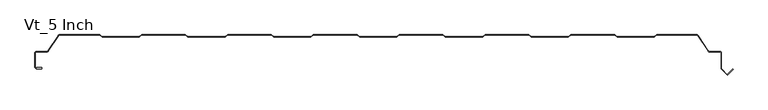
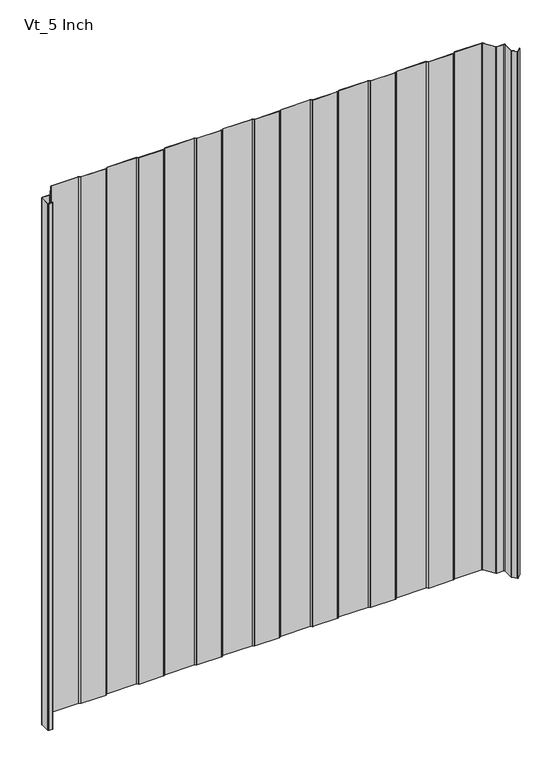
"""IFC4 building model written with IfcOpenShell, lengths in millimetres: plate geometry, KIP_R19_CP_KingSeam_Vt_Roof Panel : Vt_5 Inch."""

from ifc_helpers import new_model, si_unit, point, frame_2d, origin, origin_with_axes, place, context, project, spatial, polyline, circle_curve, trimmed, segment, composite_curve, outline, extrude, source, transform, mapped, element, save


def vt_5_inch_1d088f2f(model_context):
    return source(origin(), model_context, "Body", "SweptSolid", [
        extrude(outline(composite_curve([segment(polyline([(353.2057294, -127.2158084), (349.7460358, -124.715881), (285.172478, -124.715881), (281.7127828, -127.215809)]), True, "CONTINUOUS"), segment(trimmed(circle_curve(frame_2d((280.8342564, -126.0000005)), 1.4999996), [point((281.7127828, -127.215809))], [point((280.833285, -127.4999998))], False, "CARTESIAN"), True, "CONTINUOUS"), segment(polyline([(280.833285, -127.4999998), (227.0842565, -127.4999998)]), True, "CONTINUOUS"), segment(trimmed(circle_curve(frame_2d((227.0842565, -125.9999998)), 1.5), [point((227.0842565, -127.4999998))], [point((226.2057297, -127.2158085))], False, "CARTESIAN"), True, "CONTINUOUS"), segment(polyline([(226.2057297, -127.2158085), (222.7460351, -124.7158804), (158.1724783, -124.7158804), (154.7127834, -127.2158085)]), True, "CONTINUOUS"), segment(trimmed(circle_curve(frame_2d((153.8342567, -125.9999998)), 1.4999999), [point((154.7127834, -127.2158085))], [point((153.8332853, -127.4999994))], False, "CARTESIAN"), True, "CONTINUOUS"), segment(polyline([(153.8332853, -127.4999994), (100.0842567, -127.4999994)]), True, "CONTINUOUS"), segment(trimmed(circle_curve(frame_2d((100.0842567, -125.9999995)), 1.4999999), [point((100.0842567, -127.4999994))], [point((99.20573, -127.2158082))], False, "CARTESIAN"), True, "CONTINUOUS"), segment(polyline([(99.20573, -127.2158082), (95.7460356, -124.7158804), (31.1724783, -124.7158804), (27.7127834, -127.2158085)]), True, "CONTINUOUS"), segment(trimmed(circle_curve(frame_2d((26.8342567, -125.9999998)), 1.5), [point((27.7127834, -127.2158085))], [point((26.8332853, -127.4999995))], False, "CARTESIAN"), True, "CONTINUOUS"), segment(polyline([(26.8332853, -127.4999995), (-26.9157433, -127.4999995)]), True, "CONTINUOUS"), segment(trimmed(circle_curve(frame_2d((-26.9157433, -125.9999995)), 1.5), [point((-26.9157433, -127.4999995))], [point((-27.79427, -127.2158082))], False, "CARTESIAN"), True, "CONTINUOUS"), segment(polyline([(-27.79427, -127.2158082), (-31.2539644, -124.7158804), (-95.8275217, -124.7158804), (-99.2872166, -127.2158085)]), True, "CONTINUOUS"), segment(trimmed(circle_curve(frame_2d((-100.1657433, -125.9999998)), 1.5), [point((-99.2872166, -127.2158085))], [point((-100.1667147, -127.4999995))], False, "CARTESIAN"), True, "CONTINUOUS"), segment(polyline([(-100.1667147, -127.4999995), (-153.9157432, -127.4999995)]), True, "CONTINUOUS"), segment(trimmed(circle_curve(frame_2d((-153.9157432, -125.9999995)), 1.5), [point((-153.9157432, -127.4999995))], [point((-154.79427, -127.2158082))], False, "CARTESIAN"), True, "CONTINUOUS"), segment(polyline([(-154.79427, -127.2158082), (-158.2539643, -124.7158804), (-222.8275216, -124.7158804), (-226.287216, -127.2158087)]), True, "CONTINUOUS"), segment(trimmed(circle_curve(frame_2d((-227.1657431, -125.9999998)), 1.5000003), [point((-226.287216, -127.2158087))], [point((-227.1667145, -127.4999999))], False, "CARTESIAN"), True, "CONTINUOUS"), segment(polyline([(-227.1667145, -127.4999999), (-280.9157431, -127.4999999)]), True, "CONTINUOUS"), segment(trimmed(circle_curve(frame_2d((-280.9157431, -125.9999998)), 1.5), [point((-280.9157431, -127.4999999))], [point((-281.7942699, -127.2158085))], False, "CARTESIAN"), True, "CONTINUOUS"), segment(polyline([(-281.7942699, -127.2158085), (-285.2539646, -124.7158804), (-349.8275214, -124.7158804), (-353.2872163, -127.2158085)]), True, "CONTINUOUS"), segment(trimmed(circle_curve(frame_2d((-354.165743, -125.9999999)), 1.4999999), [point((-353.2872163, -127.2158085))], [point((-354.1667144, -127.4999995))], False, "CARTESIAN"), True, "CONTINUOUS"), segment(polyline([(-354.1667144, -127.4999995), (-407.9157429, -127.4999995)]), True, "CONTINUOUS"), segment(trimmed(circle_curve(frame_2d((-407.9157429, -125.9999994)), 1.5000001), [point((-407.9157429, -127.4999995))], [point((-408.7942697, -127.2158081))], False, "CARTESIAN"), True, "CONTINUOUS"), segment(polyline([(-408.7942697, -127.2158081), (-412.2539635, -124.7158806), (-471.4278921, -124.7158806)]), True, "CONTINUOUS"), segment(trimmed(circle_curve(frame_2d((-471.4278921, -126.7158804)), 1.9999997), [point((-471.4278921, -124.7158806))], [point((-473.0959478, -125.6124361))], True, "CARTESIAN"), True, "CONTINUOUS"), segment(polyline([(-473.0959478, -125.6124361), (-488.2993864, -148.5951861)]), True, "CONTINUOUS"), segment(trimmed(circle_curve(frame_2d((-490.3844563, -147.2158807)), 2.4999999), [point((-488.2993864, -148.5951861))], [point((-490.3844563, -149.7158806))], False, "CARTESIAN"), True, "CONTINUOUS"), segment(polyline([(-490.3844563, -149.7158806), (-505.9407428, -149.7158806)]), True, "CONTINUOUS"), segment(trimmed(circle_curve(frame_2d((-505.9407428, -151.3158806)), 1.6), [point((-505.9407428, -149.7158806))], [point((-507.5407428, -151.3158806))], True, "CARTESIAN"), True, "CONTINUOUS"), segment(polyline([(-507.5407428, -151.3158806), (-507.5407428, -172.1669597)]), True, "CONTINUOUS"), segment(trimmed(circle_curve(frame_2d((-506.3507428, -172.1669597)), 1.19), [point((-507.5407428, -172.1669597))], [point((-507.1921999, -173.0084168))], True, "CARTESIAN"), True, "CONTINUOUS"), segment(polyline([(-507.1921999, -173.0084168), (-506.182179, -174.0184377)]), True, "CONTINUOUS"), segment(trimmed(circle_curve(frame_2d((-505.3407219, -173.1769807)), 1.19), [point((-506.182179, -174.0184377))], [point((-505.3407219, -174.3669807))], True, "CARTESIAN"), True, "CONTINUOUS"), segment(polyline([(-505.3407219, -174.3669807), (-498.6107428, -174.3669807)]), True, "CONTINUOUS"), segment(trimmed(circle_curve(frame_2d((-498.6107428, -173.9669807)), 0.4), [point((-498.6107428, -174.3669807))], [point((-498.6107428, -173.5669807))], True, "CARTESIAN"), True, "CONTINUOUS"), segment(polyline([(-498.6107428, -173.5669807), (-505.3407219, -173.5669807), (-505.3407219, -172.7669807), (-498.6107428, -172.7669807)]), True, "CONTINUOUS"), segment(trimmed(circle_curve(frame_2d((-498.6107428, -173.8169807)), 1.05), [point((-498.6107428, -172.7669807))], [point((-498.6107428, -174.8669807))], False, "CARTESIAN"), True, "CONTINUOUS"), segment(polyline([(-498.6107428, -174.8669807), (-505.3407219, -174.8669807)]), True, "CONTINUOUS"), segment(trimmed(circle_curve(frame_2d((-505.3407219, -173.1769807)), 1.69), [point((-505.3407219, -174.8669807))], [point((-506.5357325, -174.371991))], False, "CARTESIAN"), True, "CONTINUOUS"), segment(polyline([(-506.5357325, -174.371991), (-507.5457533, -173.36197)]), True, "CONTINUOUS"), segment(trimmed(circle_curve(frame_2d((-506.3507428, -172.1669597)), 1.6899998), [point((-507.5457533, -173.36197))], [point((-508.0407427, -172.1669597))], False, "CARTESIAN"), True, "CONTINUOUS"), segment(polyline([(-508.0407427, -172.1669597), (-508.0407427, -151.3158805)]), True, "CONTINUOUS"), segment(trimmed(circle_curve(frame_2d((-505.9407428, -151.3158805)), 2.0999998), [point((-508.0407427, -151.3158805))], [point((-505.9407428, -149.2158807))], False, "CARTESIAN"), True, "CONTINUOUS"), segment(polyline([(-505.9407428, -149.2158807), (-490.3844563, -149.2158807)]), True, "CONTINUOUS"), segment(trimmed(circle_curve(frame_2d((-490.3844563, -147.2158807)), 2.0), [point((-490.3844563, -149.2158807))], [point((-488.7164003, -148.319325))], True, "CARTESIAN"), True, "CONTINUOUS"), segment(polyline([(-488.7164003, -148.319325), (-473.512962, -125.3365749)]), True, "CONTINUOUS"), segment(trimmed(circle_curve(frame_2d((-471.4278921, -126.7158804)), 2.5), [point((-473.512962, -125.3365749))], [point((-471.4278921, -124.2158803))], False, "CARTESIAN"), True, "CONTINUOUS"), segment(polyline([(-471.4278921, -124.2158803), (-412.2539644, -124.2158803), (-408.7942697, -126.7158086)]), True, "CONTINUOUS"), segment(trimmed(circle_curve(frame_2d((-407.9157429, -125.4999998)), 1.5000002), [point((-408.7942697, -126.7158086))], [point((-407.9157429, -126.9999999))], True, "CARTESIAN"), True, "CONTINUOUS"), segment(polyline([(-407.9157429, -126.9999999), (-354.1657429, -126.9999999)]), True, "CONTINUOUS"), segment(trimmed(circle_curve(frame_2d((-354.1657429, -125.4999999)), 1.5), [point((-354.1657429, -126.9999999))], [point((-353.2872161, -126.7158086))], True, "CARTESIAN"), True, "CONTINUOUS"), segment(polyline([(-353.2872161, -126.7158086), (-349.8275214, -124.2158803), (-285.2539646, -124.2158803), (-281.7942699, -126.7158087)]), True, "CONTINUOUS"), segment(trimmed(circle_curve(frame_2d((-280.9157431, -125.5000001)), 1.5), [point((-281.7942699, -126.7158087))], [point((-280.9157431, -127.0000001))], True, "CARTESIAN"), True, "CONTINUOUS"), segment(polyline([(-280.9157431, -127.0000001), (-227.1657431, -127.0000001)]), True, "CONTINUOUS"), segment(trimmed(circle_curve(frame_2d((-227.1657431, -125.5000001)), 1.5), [point((-227.1657431, -127.0000001))], [point((-226.2872164, -126.7158088))], True, "CARTESIAN"), True, "CONTINUOUS"), segment(polyline([(-226.2872164, -126.7158088), (-222.8275211, -124.2158803), (-158.2539647, -124.2158803), (-154.79427, -126.7158086)]), True, "CONTINUOUS"), segment(trimmed(circle_curve(frame_2d((-153.9157433, -125.4999999)), 1.5), [point((-154.79427, -126.7158086))], [point((-153.9157433, -126.9999999))], True, "CARTESIAN"), True, "CONTINUOUS"), segment(polyline([(-153.9157433, -126.9999999), (-100.1657433, -126.9999999)]), True, "CONTINUOUS"), segment(trimmed(circle_curve(frame_2d((-100.1657433, -125.5000001)), 1.4999998), [point((-100.1657433, -126.9999999))], [point((-99.2872167, -126.7158087))], True, "CARTESIAN"), True, "CONTINUOUS"), segment(polyline([(-99.2872167, -126.7158087), (-95.8275213, -124.2158803), (-31.2539649, -124.2158803), (-27.7942701, -126.7158086)]), True, "CONTINUOUS"), segment(trimmed(circle_curve(frame_2d((-26.9157433, -125.4999999)), 1.5000001), [point((-27.7942701, -126.7158086))], [point((-26.9157433, -127.0))], True, "CARTESIAN"), True, "CONTINUOUS"), segment(polyline([(-26.9157433, -127.0), (26.8342567, -127.0)]), True, "CONTINUOUS"), segment(trimmed(circle_curve(frame_2d((26.8342567, -125.5000001)), 1.4999999), [point((26.8342567, -127.0))], [point((27.7127833, -126.7158087))], True, "CARTESIAN"), True, "CONTINUOUS"), segment(polyline([(27.7127833, -126.7158087), (31.1724787, -124.2158803), (95.7460351, -124.2158803), (99.20573, -126.7158084)]), True, "CONTINUOUS"), segment(trimmed(circle_curve(frame_2d((100.0842567, -125.4999998)), 1.4999999), [point((99.20573, -126.7158084))], [point((100.0842567, -126.9999997))], True, "CARTESIAN"), True, "CONTINUOUS"), segment(polyline([(100.0842567, -126.9999997), (153.8342567, -126.9999997)]), True, "CONTINUOUS"), segment(trimmed(circle_curve(frame_2d((153.8342567, -125.4999996)), 1.5), [point((153.8342567, -126.9999997))], [point((154.7127834, -126.7158084))], True, "CARTESIAN"), True, "CONTINUOUS"), segment(polyline([(154.7127834, -126.7158084), (158.1724783, -124.2158803), (222.7460351, -124.2158803), (226.2057297, -126.7158084)]), True, "CONTINUOUS"), segment(trimmed(circle_curve(frame_2d((227.0842565, -125.4999997)), 1.5), [point((226.2057297, -126.7158084))], [point((227.0842565, -126.9999997))], True, "CARTESIAN"), True, "CONTINUOUS"), segment(polyline([(227.0842565, -126.9999997), (280.8342564, -126.9999997)]), True, "CONTINUOUS"), segment(trimmed(circle_curve(frame_2d((280.8342564, -125.5000002)), 1.4999994), [point((280.8342564, -126.9999997))], [point((281.7127826, -126.7158086))], True, "CARTESIAN"), True, "CONTINUOUS"), segment(polyline([(281.7127826, -126.7158086), (285.1724789, -124.2158803), (349.7460348, -124.2158803), (353.2057295, -126.7158083)]), True, "CONTINUOUS"), segment(trimmed(circle_curve(frame_2d((354.0842562, -125.4999997)), 1.4999999), [point((353.2057295, -126.7158083))], [point((354.0842562, -126.9999996))], True, "CARTESIAN"), True, "CONTINUOUS"), segment(polyline([(354.0842562, -126.9999996), (407.8342561, -126.9999996)]), True, "CONTINUOUS"), segment(trimmed(circle_curve(frame_2d((407.8342561, -125.4999999)), 1.4999998), [point((407.8342561, -126.9999996))], [point((408.7127826, -126.7158084))], True, "CARTESIAN"), True, "CONTINUOUS"), segment(polyline([(408.7127826, -126.7158084), (412.1724777, -124.2158803), (471.346405, -124.2158803)]), True, "CONTINUOUS"), segment(trimmed(circle_curve(frame_2d((471.346405, -126.7158801)), 2.4999998), [point((471.346405, -124.2158803))], [point((473.4314747, -125.3365748))], False, "CARTESIAN"), True, "CONTINUOUS"), segment(polyline([(473.4314747, -125.3365748), (488.6349132, -148.319325)]), True, "CONTINUOUS"), segment(trimmed(circle_curve(frame_2d((490.3029691, -147.2158806)), 2.0), [point((488.6349132, -148.319325))], [point((490.3029691, -149.2158806))], True, "CARTESIAN"), True, "CONTINUOUS"), segment(polyline([(490.3029691, -149.2158806), (505.8592557, -149.2158806)]), True, "CONTINUOUS"), segment(trimmed(circle_curve(frame_2d((505.8592557, -151.3158807)), 2.1000001), [point((505.8592557, -149.2158806))], [point((507.9592557, -151.3158807))], False, "CARTESIAN"), True, "CONTINUOUS"), segment(polyline([(507.9592557, -151.3158807), (507.9592557, -174.2505141)]), True, "CONTINUOUS"), segment(trimmed(circle_curve(frame_2d((509.4592557, -174.2505141)), 1.5), [point((507.9592557, -174.2505141))], [point((508.3985956, -175.3111742))], True, "CARTESIAN"), True, "CONTINUOUS"), segment(polyline([(508.3985956, -175.3111742), (515.9184168, -182.8309954)]), True, "CONTINUOUS"), segment(trimmed(circle_curve(frame_2d((516.4443275, -181.8012712)), 1.15625), [point((515.9184168, -182.8309954))], [point((517.2619197, -182.6188634))], True, "CARTESIAN"), True, "CONTINUOUS"), segment(polyline([(517.2619197, -182.6188634), (524.6158302, -175.2649529), (525.1815156, -175.8306383), (517.8276051, -183.1845488)]), True, "CONTINUOUS"), segment(trimmed(circle_curve(frame_2d((516.6962342, -182.053178)), 1.6), [point((517.8276051, -183.1845488))], [point((515.5648634, -183.1845488))], False, "CARTESIAN"), True, "CONTINUOUS"), segment(polyline([(515.5648634, -183.1845488), (508.0450422, -175.6647276)]), True, "CONTINUOUS"), segment(trimmed(circle_curve(frame_2d((509.4592557, -174.2505141)), 2.0), [point((508.0450422, -175.6647276))], [point((507.4592557, -174.2505141))], False, "CARTESIAN"), True, "CONTINUOUS"), segment(polyline([(507.4592557, -174.2505141), (507.4592557, -151.3158807)]), True, "CONTINUOUS"), segment(trimmed(circle_curve(frame_2d((505.8592556, -151.3158807)), 1.6000001), [point((507.4592557, -151.3158807))], [point((505.8592556, -149.7158806))], True, "CARTESIAN"), True, "CONTINUOUS"), segment(polyline([(505.8592556, -149.7158806), (490.3029691, -149.7158806)]), True, "CONTINUOUS"), segment(trimmed(circle_curve(frame_2d((490.3029691, -147.2158806)), 2.4999999), [point((490.3029691, -149.7158806))], [point((488.2178993, -148.5951861))], False, "CARTESIAN"), True, "CONTINUOUS"), segment(polyline([(488.2178993, -148.5951861), (473.0144605, -125.612436)]), True, "CONTINUOUS"), segment(trimmed(circle_curve(frame_2d((471.346405, -126.7158801)), 1.9999995), [point((473.0144605, -125.612436))], [point((471.346405, -124.7158806))], True, "CARTESIAN"), True, "CONTINUOUS"), segment(polyline([(471.346405, -124.7158806), (412.1724777, -124.7158806), (408.7127828, -127.2158088)]), True, "CONTINUOUS"), segment(trimmed(circle_curve(frame_2d((407.8342561, -126.0000001)), 1.5), [point((408.7127828, -127.2158088))], [point((407.8332847, -127.4999997))], False, "CARTESIAN"), True, "CONTINUOUS"), segment(polyline([(407.8332847, -127.4999997), (354.0842561, -127.4999997)]), True, "CONTINUOUS"), segment(trimmed(circle_curve(frame_2d((354.0842561, -125.9999998)), 1.5), [point((354.0842561, -127.4999997))], [point((353.2057294, -127.2158084))], False, "CARTESIAN"), True, "CONTINUOUS")], self_intersect=False)), origin_with_axes(), (0.0, 0.0, 1.0), 1219.2),
    ])


if __name__ == "__main__":
    model = new_model("IFC4")
    model_context = context("Model", 3, world=origin())
    ifc_project = project(units=[si_unit("LENGTHUNIT", "METRE", prefix="MILLI")], contexts=[model_context])
    site = spatial("IfcSite", under=ifc_project)
    building = spatial("IfcBuilding", under=site)
    placement = place(None, origin())
    vt_5_inch_shape = vt_5_inch_1d088f2f(model_context)
    element("IfcPlate", 1, ObjectType="KIP_R19_CP_KingSeam_Vt_Roof Panel : Vt_5 Inch", at=placement, inside=building, context=model_context, shape_type="MappedRepresentation", body=[
        mapped(vt_5_inch_shape, transform((0.0, 0.0, 0.0), x_axis=(1.0, 0.0, 0.0), y_axis=(0.0, 1.0, 0.0), z_axis=(0.0, 0.0, 1.0))),
    ])
    save(model, "model.ifc")
